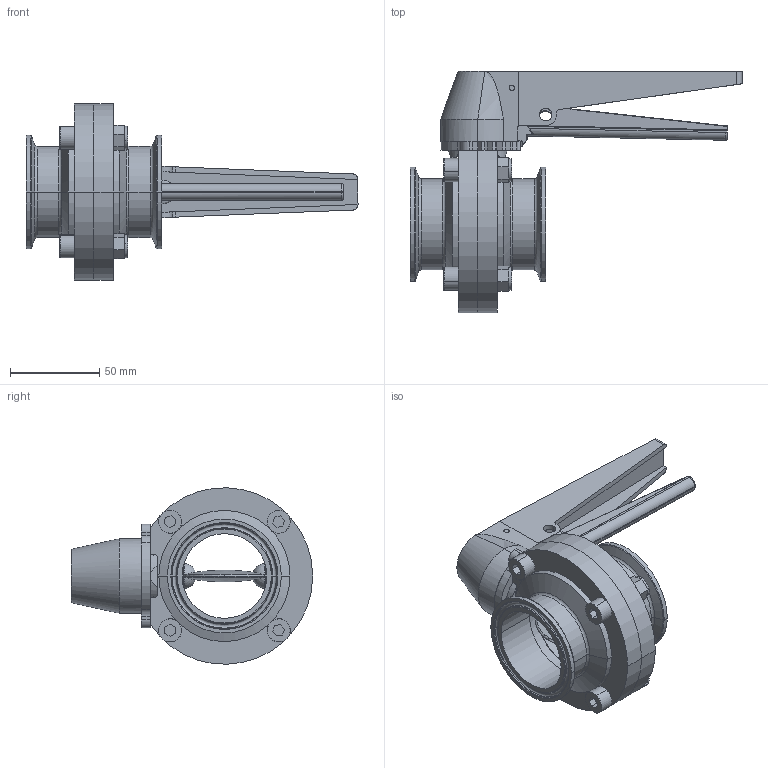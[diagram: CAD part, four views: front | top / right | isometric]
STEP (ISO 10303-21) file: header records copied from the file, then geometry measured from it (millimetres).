
FILE_DESCRIPTION (( 'STEP AP214' ), '1' );
FILE_NAME ('2in Sanitary BFV, Clamp Ends, with SS Trigger handle(樓躇).STEP', '2025-03-24T02:40:03', ( '' ), ( '' ), 'SwSTEP 2.0', 'SolidWorks 2023', '' );
FILE_SCHEMA (( 'AUTOMOTIVE_DESIGN' ));
Length unit declared in the file: millimetre
Products named in the file (14): 2601E0084 2601S0085 2in 3A 蝶阀密封圈-AVK; 31013G0054 31013R0005 31012G0053 31012R0005 2in B5101 快装蝶阀_VEN加密; 220110003  B5107蝶阀AFV把手杆-03D  5107-HT-5040 CF8; 2201G0025 蝶阀不锈钢把手-固定销; 0.5~4in 蝶阀衬套 2606M0001 2606M0002 2606M0003 2606M0004; 2201G0016 蝶阀不锈钢把手-弹簧; 1-2.5in B5107 蝶阀把手齿轮片 2201G0285; 内六角圆柱头螺钉M5X40; 31014R0019 31014G0031 2in 蝶片 9.98; GB／T889．1-20001型非金属嵌件六角锁紧螺母M8; 不锈钢把手_0.5-2.5in 开启状态; GB／T70．1-2000内六角圆柱头螺钉M8×30; 2in Sanitary BFV, Clamp Ends, with SS Trigger handle(加密); CME 不锈钢把手1-4 in_大头加密
Assembly tree (21 placements, depth 3):
  2in Sanitary BFV, Clamp Ends, with SS Trigger handle(加密)
    31013G0054 31013R0005 31012G0053 31012R0005 2in B5101 快装蝶阀_VEN加密  x2
    31014R0019 31014G0031 2in 蝶片 9.98
    2601E0084 2601S0085 2in 3A 蝶阀密封圈-AVK
    0.5~4in 蝶阀衬套 2606M0001 2606M0002 2606M0003 2606M0004  x2
    不锈钢把手_0.5-2.5in 开启状态
      1-2.5in B5107 蝶阀把手齿轮片 2201G0285
      CME 不锈钢把手1-4 in_大头加密
      220110003  B5107蝶阀AFV把手杆-03D  5107-HT-5040 CF8
      2201G0016 蝶阀不锈钢把手-弹簧
      2201G0025 蝶阀不锈钢把手-固定销
      内六角圆柱头螺钉M5X40
    GB／T70．1-2000内六角圆柱头螺钉M8×30  x4
    GB／T889．1-20001型非金属嵌件六角锁紧螺母M8  x4
Bounding box: 186.12 x 135.3 x 98.95 mm (x, y, z)
Volume: 306583.9 mm3; surface area: 116129.5 mm2
Topology: 20 solids, 21 shells, 992 faces, 2412 edges, 1488 vertices
Faces by surface type: plane 357, cylinder 272, bspline 126, cone 106, torus 98, sphere 33
Entity records: 30760 total; most frequent: CARTESIAN_POINT 13486, ORIENTED_EDGE 3664, DIRECTION 3275, EDGE_CURVE 1832, AXIS2_PLACEMENT_3D 1213, VERTEX_POINT 1141, VECTOR 849, LINE 849
